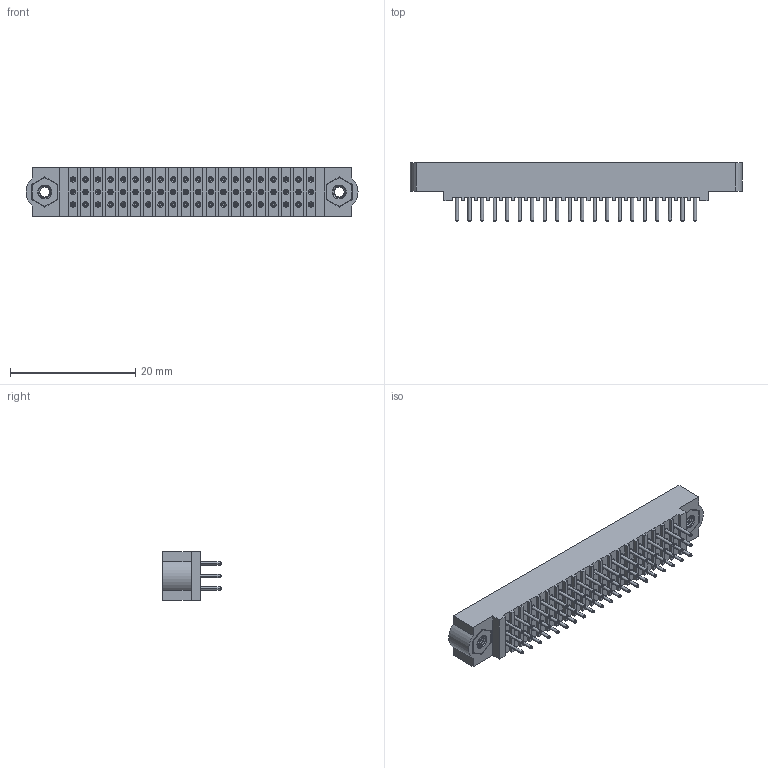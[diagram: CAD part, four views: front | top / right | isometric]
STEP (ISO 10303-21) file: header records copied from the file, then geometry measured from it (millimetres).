
FILE_DESCRIPTION((''),'2;1');
FILE_NAME('M83-LMT1M1N18-0000-000_ASM','2011-12-08T',('WBOURNE'),(''),'PRO/ENGINEER BY PARAMETRIC TECHNOLOGY CORPORATION, 2010280','PRO/ENGINEER BY PARAMETRIC TECHNOLOGY CORPORATION, 2010280','');
FILE_SCHEMA(('CONFIG_CONTROL_DESIGN','SHAPE_APPEARANCE_LAYERS_GROUPS'));
Length unit declared in the file: millimetre
Products named in the file (4): M83-271-00-60-00; M80-0200049; M80C107988C; M83-LMT1M1N18-0000-000_ASM
Assembly tree (63 placements, depth 2):
  M83-LMT1M1N18-0000-000_ASM
    M83-271-00-60-00
    M80-0200049  x60
    M80C107988C  x2
Bounding box: 53 x 9.3 x 7.7 mm (x, y, z)
Volume: 1144.6 mm3; surface area: 3265.9 mm2
Topology: 63 solids, 65 shells, 1665 faces, 3852 edges, 2440 vertices
Faces by surface type: plane 735, cone 376, cylinder 290, bspline 264
Entity records: 20401 total; most frequent: CARTESIAN_POINT 5455, DIRECTION 2452, ORIENTED_EDGE 2244, PRESENTATION_STYLE_ASSIGNMENT 1128, STYLED_ITEM 1128, CURVE_STYLE 1124, EDGE_CURVE 1124, AXIS2_PLACEMENT_3D 902
